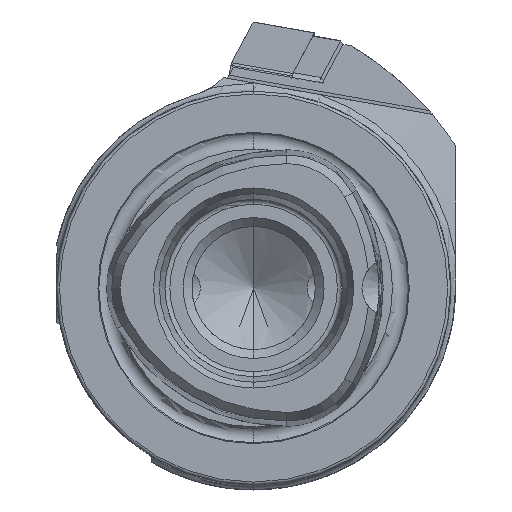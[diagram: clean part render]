
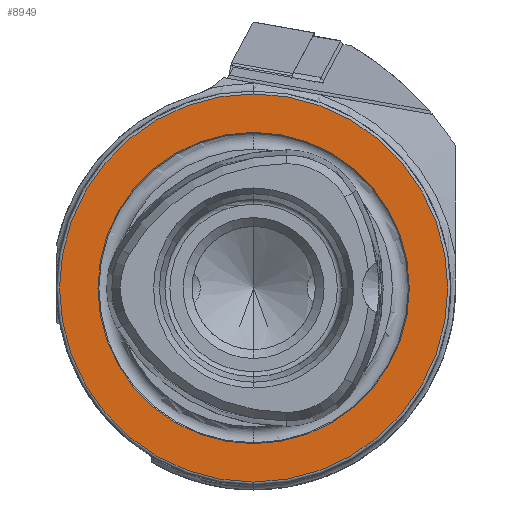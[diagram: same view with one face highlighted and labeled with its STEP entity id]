
A CAD part, left-side view. The second image highlights one B-rep face of the part: STEP entity #8949.
In plain terms, the highlighted planar face has unit normal (-1, 0, 0).
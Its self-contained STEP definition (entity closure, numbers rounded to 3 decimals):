
#81 = CARTESIAN_POINT ( 'NONE',  ( 0., 0., 19.7 ) ) ;
#351 = CARTESIAN_POINT ( 'NONE',  ( 0., 0., 0. ) ) ;
#1211 = CARTESIAN_POINT ( 'NONE',  ( 0., 0., 0. ) ) ;
#1567 = VERTEX_POINT ( 'NONE', #9419 ) ;
#1980 = AXIS2_PLACEMENT_3D ( 'NONE', #2498, #4779, #2553 ) ;
#2370 = FACE_OUTER_BOUND ( 'NONE', #6441, .T. ) ;
#2498 = CARTESIAN_POINT ( 'NONE',  ( 0., 0., 0. ) ) ;
#2553 = DIRECTION ( 'NONE',  ( 0., 0., 1. ) ) ;
#2572 = CARTESIAN_POINT ( 'NONE',  ( 0., 0., -15.8 ) ) ;
#2824 = AXIS2_PLACEMENT_3D ( 'NONE', #3411, #11019, #9713 ) ;
#3411 = CARTESIAN_POINT ( 'NONE',  ( 0., 15.8, 0. ) ) ;
#3773 = ORIENTED_EDGE ( 'NONE', *, *, #11107, .F. ) ;
#4779 = DIRECTION ( 'NONE',  ( -1., 0., 0. ) ) ;
#5589 = ORIENTED_EDGE ( 'NONE', *, *, #7709, .T. ) ;
#6049 = CIRCLE ( 'NONE', #12356, 15.8 ) ;
#6095 = AXIS2_PLACEMENT_3D ( 'NONE', #1211, #9449, #14219 ) ;
#6441 = EDGE_LOOP ( 'NONE', ( #5589, #9477 ) ) ;
#6614 = CIRCLE ( 'NONE', #7697, 19.7 ) ;
#6656 = DIRECTION ( 'NONE',  ( -1., 0., 0. ) ) ;
#6915 = VERTEX_POINT ( 'NONE', #2572 ) ;
#6996 = PLANE ( 'NONE',  #2824 ) ;
#7697 = AXIS2_PLACEMENT_3D ( 'NONE', #11312, #6656, #9076 ) ;
#7709 = EDGE_CURVE ( 'NONE', #10600, #8511, #6614, .T. ) ;
#8511 = VERTEX_POINT ( 'NONE', #9544 ) ;
#8787 = FACE_BOUND ( 'NONE', #9244, .T. ) ;
#8949 = ADVANCED_FACE ( 'NONE', ( #8787, #2370 ), #6996, .F. ) ;
#9076 = DIRECTION ( 'NONE',  ( 0., 0., 1. ) ) ;
#9244 = EDGE_LOOP ( 'NONE', ( #3773, #13682 ) ) ;
#9419 = CARTESIAN_POINT ( 'NONE',  ( 0., 0., 15.8 ) ) ;
#9449 = DIRECTION ( 'NONE',  ( -1., 0., 0. ) ) ;
#9477 = ORIENTED_EDGE ( 'NONE', *, *, #12267, .T. ) ;
#9544 = CARTESIAN_POINT ( 'NONE',  ( 0., 0., -19.7 ) ) ;
#9713 = DIRECTION ( 'NONE',  ( 0., 0., -1. ) ) ;
#10600 = VERTEX_POINT ( 'NONE', #81 ) ;
#11019 = DIRECTION ( 'NONE',  ( 1., 0., 0. ) ) ;
#11107 = EDGE_CURVE ( 'NONE', #1567, #6915, #14270, .T. ) ;
#11312 = CARTESIAN_POINT ( 'NONE',  ( 0., 0., 0. ) ) ;
#12267 = EDGE_CURVE ( 'NONE', #8511, #10600, #12986, .T. ) ;
#12356 = AXIS2_PLACEMENT_3D ( 'NONE', #351, #13253, #14546 ) ;
#12986 = CIRCLE ( 'NONE', #1980, 19.7 ) ;
#13253 = DIRECTION ( 'NONE',  ( -1., 0., 0. ) ) ;
#13387 = EDGE_CURVE ( 'NONE', #6915, #1567, #6049, .T. ) ;
#13682 = ORIENTED_EDGE ( 'NONE', *, *, #13387, .F. ) ;
#14219 = DIRECTION ( 'NONE',  ( 0., 0., 1. ) ) ;
#14270 = CIRCLE ( 'NONE', #6095, 15.8 ) ;
#14546 = DIRECTION ( 'NONE',  ( 0., 0., 1. ) ) ;
